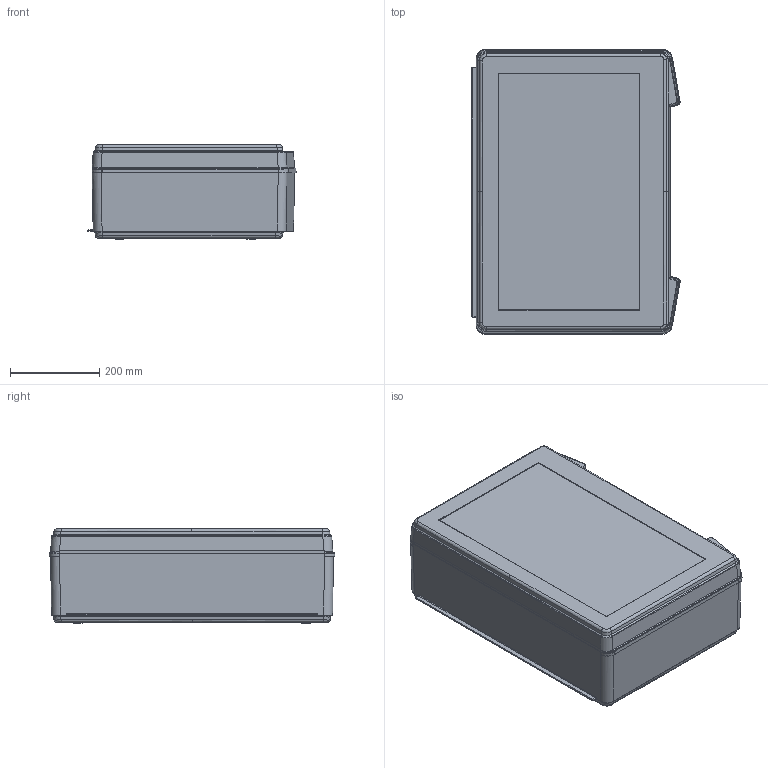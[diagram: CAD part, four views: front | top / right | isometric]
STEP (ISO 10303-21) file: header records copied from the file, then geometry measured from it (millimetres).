
FILE_DESCRIPTION(/* description */ (''),/* implementation_level */ '2;1');
FILE_NAME(/* name */ 'T156_Case_OT-UT.stp',/* time_stamp */ '2014-10-06T10:00:34+02:00',/* author */ (''),/* organization */ (''),/* preprocessor_version */ 'ST-DEVELOPER v15',/* originating_system */ 'SIEMENS PLM Software NX 8.5',/* authorisation */ '');
FILE_SCHEMA (('AUTOMOTIVE_DESIGN { 1 0 10303 214 3 1 1 1 }'));
Products named in the file (1): pk1A9099730h8x
Bounding box: 465.59 x 638.94 x 210.5 mm (x, y, z)
Volume: 3678905.8 mm3; surface area: 1954942.9 mm2
Topology: 2 solids, 2 shells, 1211 faces, 3108 edges, 1865 vertices
Faces by surface type: bspline 544, cylinder 321, plane 292, sphere 28, cone 25, extrusion 1
Entity records: 93211 total; most frequent: CARTESIAN_POINT 68335, ORIENTED_EDGE 6132, DIRECTION 3909, EDGE_CURVE 3066, VERTEX_POINT 1865, AXIS2_PLACEMENT_3D 1331, VECTOR 1247, LINE 1246
